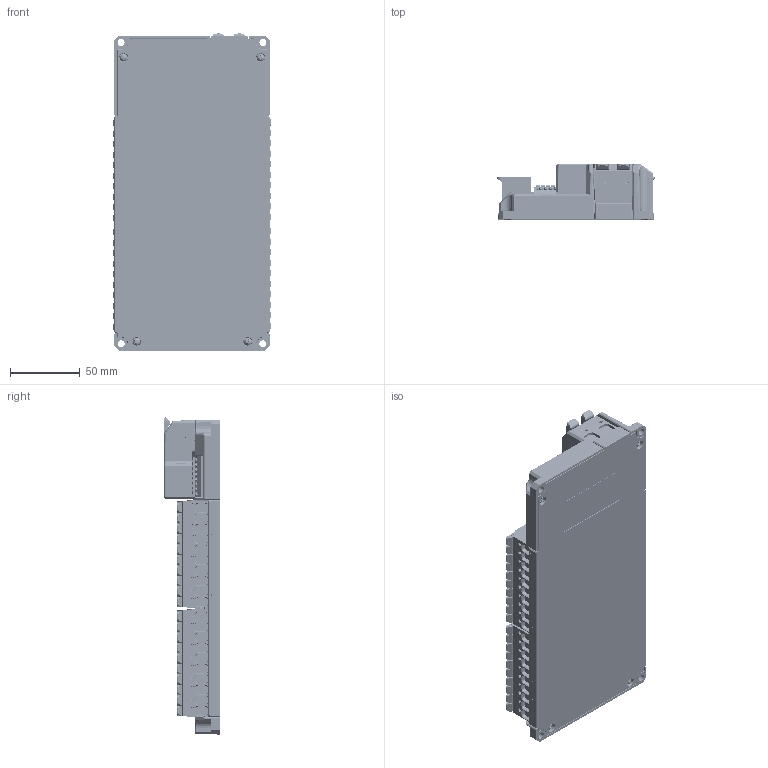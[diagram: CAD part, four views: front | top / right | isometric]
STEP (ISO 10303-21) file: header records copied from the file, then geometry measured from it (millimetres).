
FILE_DESCRIPTION (( 'STEP AP203' ), '1' );
FILE_NAME ('REV-11-1850_PUBLIC_CAD.STEP', '2021-09-28T13:48:43', ( '' ), ( '' ), 'SwSTEP 2.0', 'SolidWorks 2019', '' );
FILE_SCHEMA (( 'CONFIG_CONTROL_DESIGN' ));
Products named in the file (1): REV-11-1850_PUBLIC_CAD
Bounding box: 112.73 x 39.72 x 227.12 mm (x, y, z)
Volume: 346204.3 mm3; surface area: 367157.3 mm2
Topology: 403 solids, 403 shells, 24497 faces, 68554 edges, 44896 vertices
Faces by surface type: plane 13294, cylinder 6875, bspline 2792, cone 1300, sphere 182, torus 54
Entity records: 821903 total; most frequent: CARTESIAN_POINT 204482, ORIENTED_EDGE 136902, DIRECTION 117298, EDGE_CURVE 68451, VERTEX_POINT 44896, VECTOR 44394, LINE 44394, AXIS2_PLACEMENT_3D 36452
